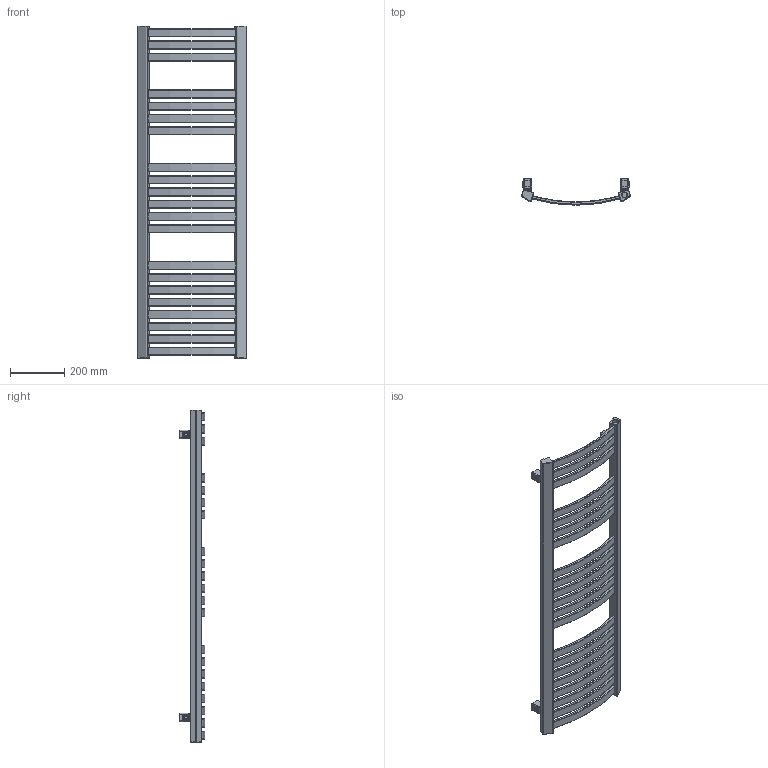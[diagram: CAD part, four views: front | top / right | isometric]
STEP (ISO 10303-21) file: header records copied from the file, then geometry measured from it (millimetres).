
FILE_DESCRIPTION((''),'2;1');
FILE_NAME('Z:\R\G\P\RGPH02 - Grzejnik Dexter\Work\Inventor\Marketing\Autocad\DE-1220-400 SX.stp','2012-07-12T13:31:26',('KurKa'),(''),'Autodesk Inventor 2012','Autodesk Inventor 2012','');
FILE_SCHEMA(('AUTOMOTIVE_DESIGN { 1 0 10303 214 1 1 1 1 }'));
Length unit declared in the file: millimetre
Products named in the file (10): DE-1220-400 SX; DE-1220-400-1-5-8; MKT42-00-B v0.2; MKT42-01 v0; MKT42-02-B v0; PN_M-82019; M6; NK-S10-M5-3-R; PN-87/M-82302 M5 x 22; PN-87/M-82302  M5 x 12; MKT42-03 v0.2
Assembly tree (12 placements, depth 3):
  DE-1220-400 SX
    DE-1220-400-1-5-8
    MKT42-00-B v0.2  x4
      MKT42-01 v0
      MKT42-02-B v0
      PN_M-82019; M6
      NK-S10-M5-3-R
      PN-87/M-82302 M5 x 22
      PN-87/M-82302  M5 x 12
      MKT42-03 v0.2
Bounding box: 399.87 x 95.38 x 1220 mm (x, y, z)
Volume: 5112562.6 mm3; surface area: 941924.5 mm2
Topology: 29 solids, 29 shells, 1605 faces, 4375 edges, 2849 vertices
Faces by surface type: plane 1025, cylinder 369, torus 127, cone 44, bspline 40
Full cylindrical faces by diameter (mm): 4.134 x4, 5 x8, 5.5 x12, 6.3 x4, 8.5 x8, 10 x4, 18 x4, 18.631 x3
Entity records: 18928 total; most frequent: CARTESIAN_POINT 3719, DIRECTION 3248, ORIENTED_EDGE 3072, EDGE_CURVE 1536, AXIS2_PLACEMENT_3D 1185, VERTEX_POINT 1014, VECTOR 878, LINE 878
